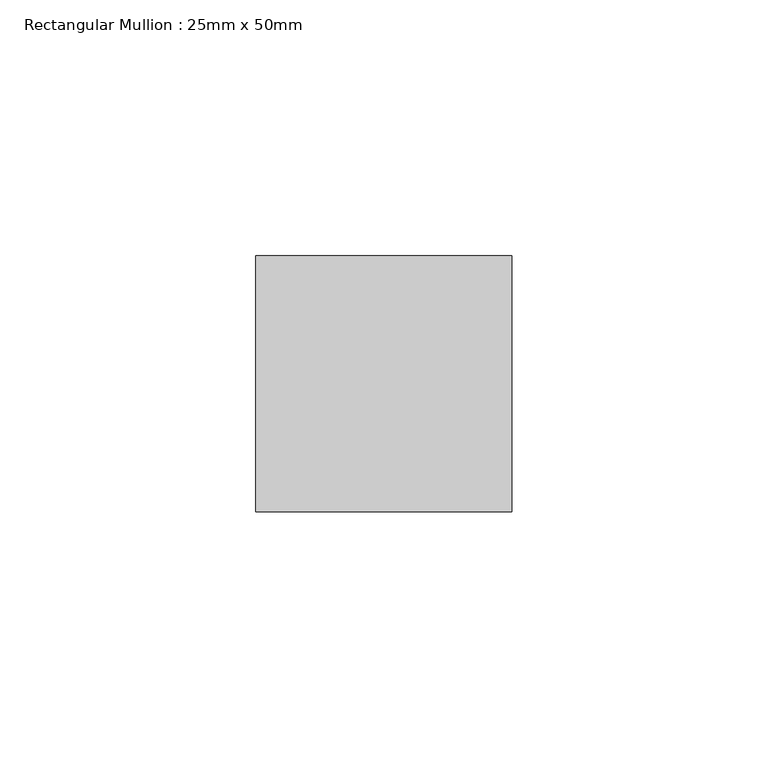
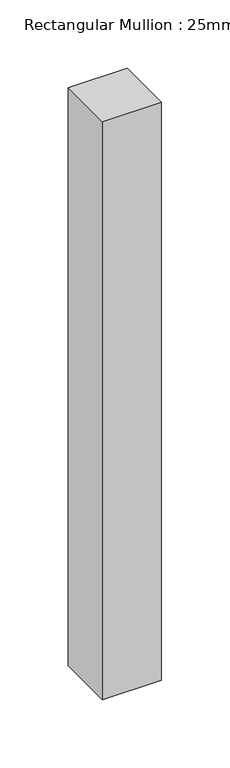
"""IFC4 building model written with IfcOpenShell, lengths in millimetres: member geometry, Rectangular Mullion : 25mm x 50mm."""

from ifc_helpers import new_model, si_unit, frame, origin, place, context, project, spatial, polyline, outline, extrude, source, transform, mapped, element, save


def rectangular_mullion_25mm_x_50mm_8fa14646(model_context):
    return source(origin(), model_context, "Body", "SweptSolid", [
        extrude(outline(polyline([(0.0, 25.0), (0.0, -25.0), (-50.0, -25.0), (-50.0, 25.0), (0.0, 25.0)])), frame((0.0, 0.0, -517.3366684), z_axis=(0.0, 0.0, 1.0), x_axis=(1.0, 0.0, 0.0)), (0.0, 0.0, 1.0), 517.3366684),
    ])


if __name__ == "__main__":
    model = new_model("IFC4")
    model_context = context("Model", 3, world=origin())
    ifc_project = project(units=[si_unit("LENGTHUNIT", "METRE", prefix="MILLI")], contexts=[model_context])
    site = spatial("IfcSite", under=ifc_project)
    building = spatial("IfcBuilding", under=site)
    placement = place(None, origin())
    rectangular_mullion_25mm_x_50mm_shape = rectangular_mullion_25mm_x_50mm_8fa14646(model_context)
    element("IfcMember", 1, ObjectType="Rectangular Mullion : 25mm x 50mm", at=placement, inside=building, context=model_context, shape_type="MappedRepresentation", body=[
        mapped(rectangular_mullion_25mm_x_50mm_shape, transform((0.0, 0.0, 0.0), x_axis=(1.0, 0.0, 0.0), y_axis=(0.0, 1.0, 0.0), z_axis=(0.0, 0.0, 1.0))),
    ])
    save(model, "model.ifc")
